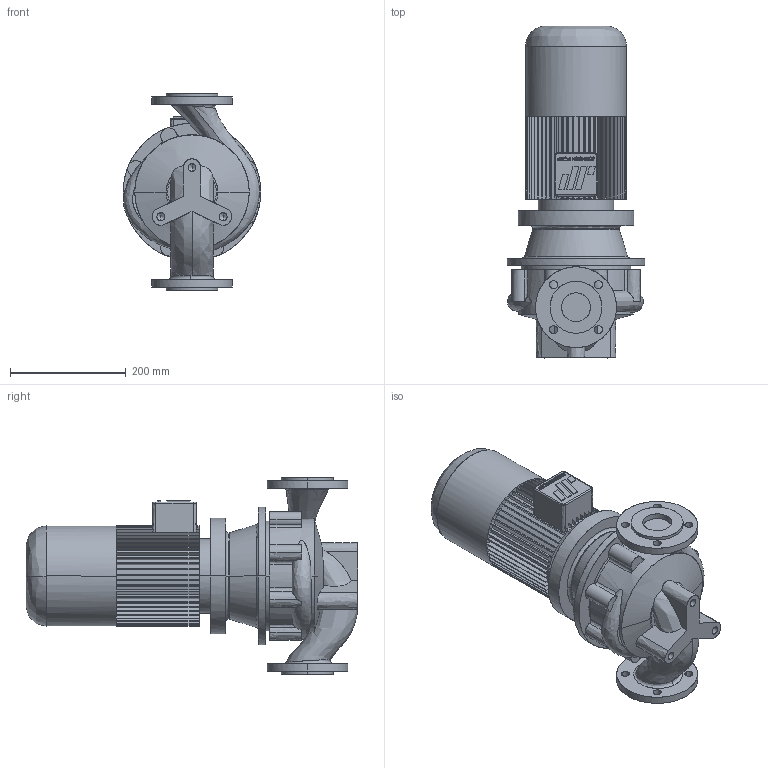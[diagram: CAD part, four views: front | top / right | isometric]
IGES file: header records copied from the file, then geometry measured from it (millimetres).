
Start section: CombiLine
Global section: file name: CLB_50-160_IEC90L.igs; native system:  By UGS Corp.; preprocessor: XPlus GENERIC/IGES 3.0; author: Stageplaats; organization: Johnson Pump Water B.V.; date: 20070713.130446; units: millimetre
Bounding box: 238 x 574.5 x 340 mm (x, y, z)
Surface area: 694311.7 mm2 (no closed solid volume)
Topology: 0 solids, 0 shells, 542 faces, 3296 edges, 3290 vertices
Faces by surface type: bspline 542
